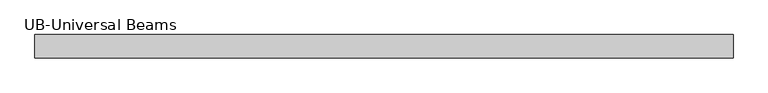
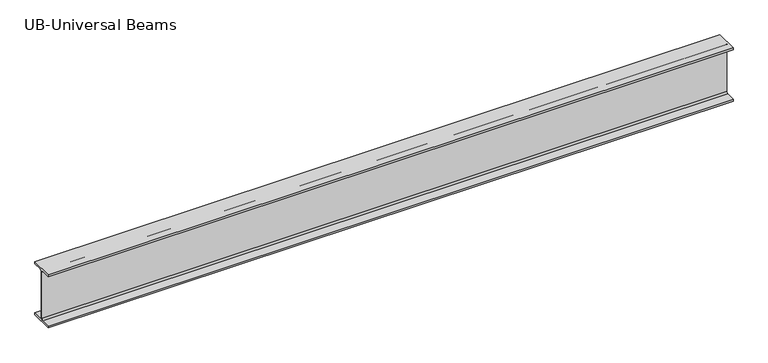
"""IFC4 building model written with IfcOpenShell, lengths in millimetres: beam geometry."""

from ifc_helpers import new_model, si_unit, point, frame, frame_2d, origin, place, context, project, spatial, polyline, circle_curve, trimmed, segment, composite_curve, outline, extrude, source, transform, mapped, element, save


def ub_universal_beams_83364cc9(model_context):
    return source(origin(), model_context, "Body", "SweptSolid", [
        extrude(outline(composite_curve([segment(polyline([(61.7, -141.5), (61.7, -152.2), (-61.7, -152.2), (-61.7, -141.5), (-12.45, -141.5)]), True, "CONTINUOUS"), segment(trimmed(circle_curve(frame_2d((-12.45, -132.6)), 8.9), [point((-12.45, -141.5))], [point((-3.55, -132.6))], True, "CARTESIAN"), True, "CONTINUOUS"), segment(polyline([(-3.55, -132.6), (-3.55, 132.6)]), True, "CONTINUOUS"), segment(trimmed(circle_curve(frame_2d((-12.45, 132.6)), 8.9), [point((-3.55, 132.6))], [point((-12.45, 141.5))], True, "CARTESIAN"), True, "CONTINUOUS"), segment(polyline([(-12.45, 141.5), (-61.7, 141.5), (-61.7, 152.2), (61.7, 152.2), (61.7, 141.5), (12.45, 141.5)]), True, "CONTINUOUS"), segment(trimmed(circle_curve(frame_2d((12.45, 132.6)), 8.9), [point((12.45, 141.5))], [point((3.55, 132.6))], True, "CARTESIAN"), True, "CONTINUOUS"), segment(polyline([(3.55, 132.6), (3.55, -132.6)]), True, "CONTINUOUS"), segment(trimmed(circle_curve(frame_2d((12.45, -132.6)), 8.9), [point((3.55, -132.6))], [point((12.45, -141.5))], True, "CARTESIAN"), True, "CONTINUOUS"), segment(polyline([(12.45, -141.5), (61.7, -141.5)]), True, "CONTINUOUS")], self_intersect=False)), frame((-1857.6, 0.0, 0.0), z_axis=(1.0, 0.0, 0.0), x_axis=(0.0, 1.0, 0.0)), (0.0, 0.0, 1.0), 3715.2),
    ])


if __name__ == "__main__":
    model = new_model("IFC4")
    model_context = context("Model", 3, world=origin())
    ifc_project = project(units=[si_unit("LENGTHUNIT", "METRE", prefix="MILLI")], contexts=[model_context])
    site = spatial("IfcSite", under=ifc_project)
    building = spatial("IfcBuilding", under=site)
    placement = place(None, origin())
    ub_universal_beams_shape = ub_universal_beams_83364cc9(model_context)
    element("IfcBeam", 1, ObjectType="UB-Universal Beams : UB 12\" x 5\" x 1 1/2\"", at=placement, inside=building, context=model_context, shape_type="MappedRepresentation", body=[
        mapped(ub_universal_beams_shape, transform((0.0, 0.0, 0.0), x_axis=(1.0, 0.0, 0.0), y_axis=(0.0, 1.0, 0.0), z_axis=(0.0, 0.0, 1.0))),
    ])
    save(model, "model.ifc")
